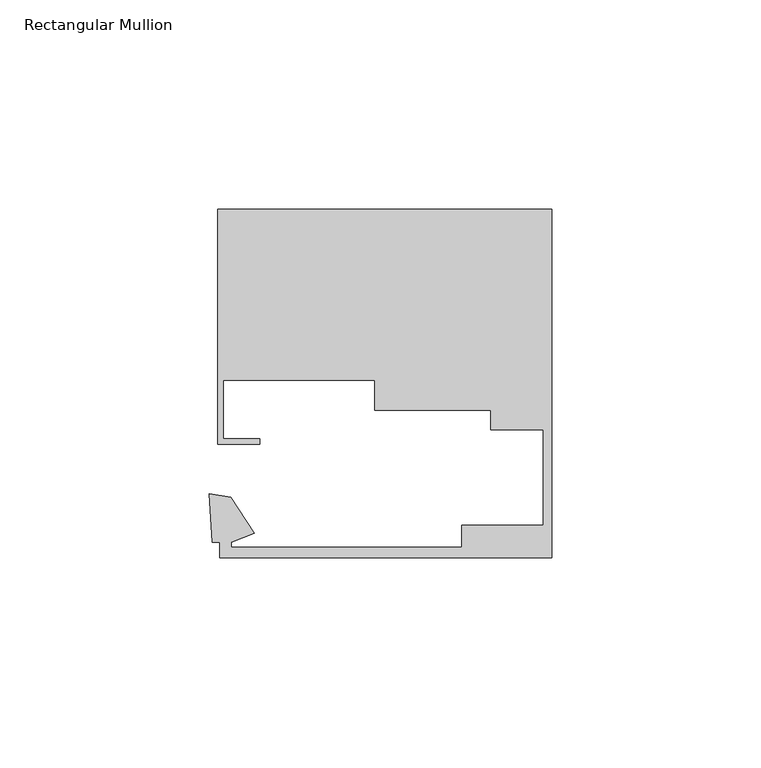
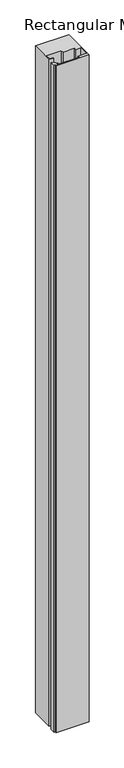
"""IFC4 building model written with IfcOpenShell, lengths in millimetres: member geometry, Rectangular Mullion : Danpal_NM_End-Mullion_B1."""

from ifc_helpers import new_model, si_unit, frame, origin, place, context, project, spatial, polyline, outline, extrude, source, transform, mapped, element, save


def rectangular_mullion_879f446c(model_context):
    return source(origin(), model_context, "Body", "SweptSolid", [
        extrude(outline(polyline([(0.0, 68.4940825), (0.0, -14.8051514), (-79.3474874, -14.8003189), (-79.3474874, -11.1413992), (-81.1597999, -11.1413992), (-81.8779002, 0.484903), (-76.7540801, -0.319325), (-71.0577359, -9.0180613), (-76.6478166, -11.1168176), (-76.6478166, -12.3181946), (-21.5478166, -12.3181946), (-21.5478166, -7.1181946), (-2.0000001, -7.1181946), (-2.0000001, 15.7940824), (-14.6000003, 15.7940824), (-14.6000003, 20.3492381), (-42.2684147, 20.3894746), (-42.2578709, 27.6399085), (-78.4582695, 27.6399085), (-78.4582695, 13.5916994), (-69.8282946, 13.5916994), (-69.8282946, 12.280939), (-79.7784606, 12.280939), (-79.7784606, 68.4940825), (0.0, 68.4940825)])), frame((0.0, 0.0, -1686.1107298), z_axis=(0.0, 0.0, 1.0), x_axis=(1.0, 0.0, 0.0)), (0.0, 0.0, 1.0), 1686.1107298),
    ])


if __name__ == "__main__":
    model = new_model("IFC4")
    model_context = context("Model", 3, world=origin())
    ifc_project = project(units=[si_unit("LENGTHUNIT", "METRE", prefix="MILLI")], contexts=[model_context])
    site = spatial("IfcSite", under=ifc_project)
    building = spatial("IfcBuilding", under=site)
    placement = place(None, origin())
    rectangular_mullion_shape = rectangular_mullion_879f446c(model_context)
    element("IfcMember", 1, ObjectType="Rectangular Mullion : Danpal_NM_End-Mullion_B1", at=placement, inside=building, context=model_context, shape_type="MappedRepresentation", body=[
        mapped(rectangular_mullion_shape, transform((0.0, 0.0, 0.0), x_axis=(1.0, 0.0, 0.0), y_axis=(0.0, 1.0, 0.0), z_axis=(0.0, 0.0, 1.0))),
    ])
    save(model, "model.ifc")
